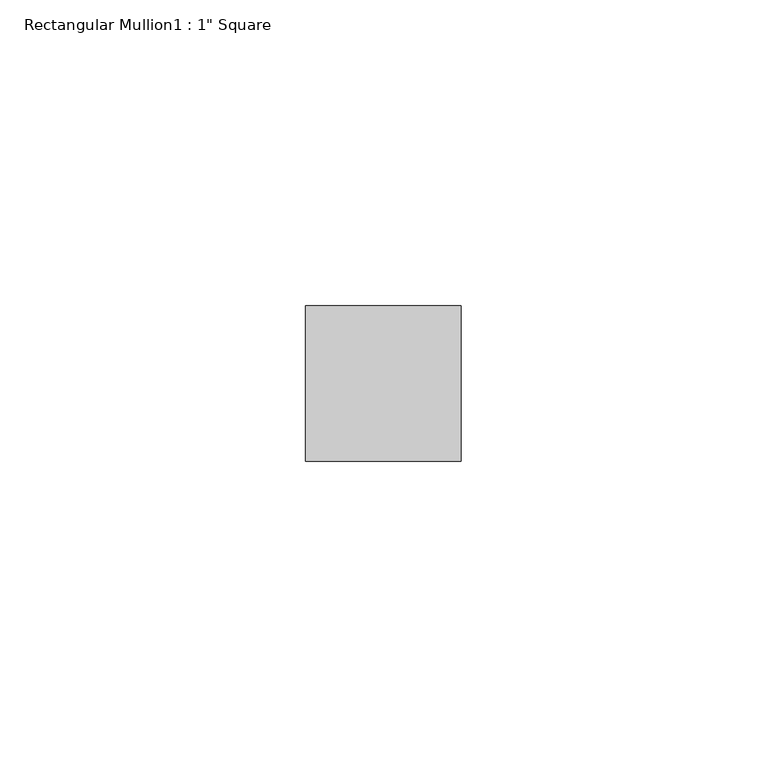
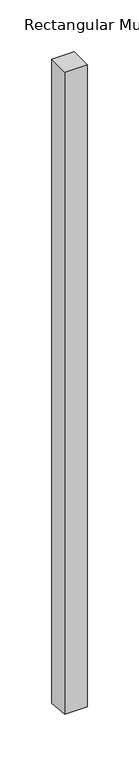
"""IFC4 building model written with IfcOpenShell, lengths in millimetres: member geometry."""

from ifc_helpers import new_model, si_unit, frame, origin, place, context, project, spatial, polyline, outline, extrude, source, transform, mapped, element, save


def member_83dfa611(model_context):
    return source(origin(), model_context, "Body", "SweptSolid", [
        extrude(outline(polyline([(-44.45, 0.0), (-19.05, 0.0), (-19.05, -762.8125975), (-44.45, -760.3930748), (-44.45, 0.0)])), frame((-12.7, 0.0, 0.0), z_axis=(1.0, 0.0, 0.0), x_axis=(0.0, 1.0, 0.0)), (0.0, 0.0, 1.0), 25.4),
    ])


if __name__ == "__main__":
    model = new_model("IFC4")
    model_context = context("Model", 3, world=origin())
    ifc_project = project(units=[si_unit("LENGTHUNIT", "METRE", prefix="MILLI")], contexts=[model_context])
    site = spatial("IfcSite", under=ifc_project)
    building = spatial("IfcBuilding", under=site)
    placement = place(None, origin())
    member_shape = member_83dfa611(model_context)
    element("IfcMember", 1, ObjectType="Rectangular Mullion1 : 1\" Square", at=placement, inside=building, context=model_context, shape_type="MappedRepresentation", body=[
        mapped(member_shape, transform((0.0, 0.0, 0.0), x_axis=(1.0, 0.0, 0.0), y_axis=(0.0, 1.0, 0.0), z_axis=(0.0, 0.0, 1.0))),
    ])
    save(model, "model.ifc")
